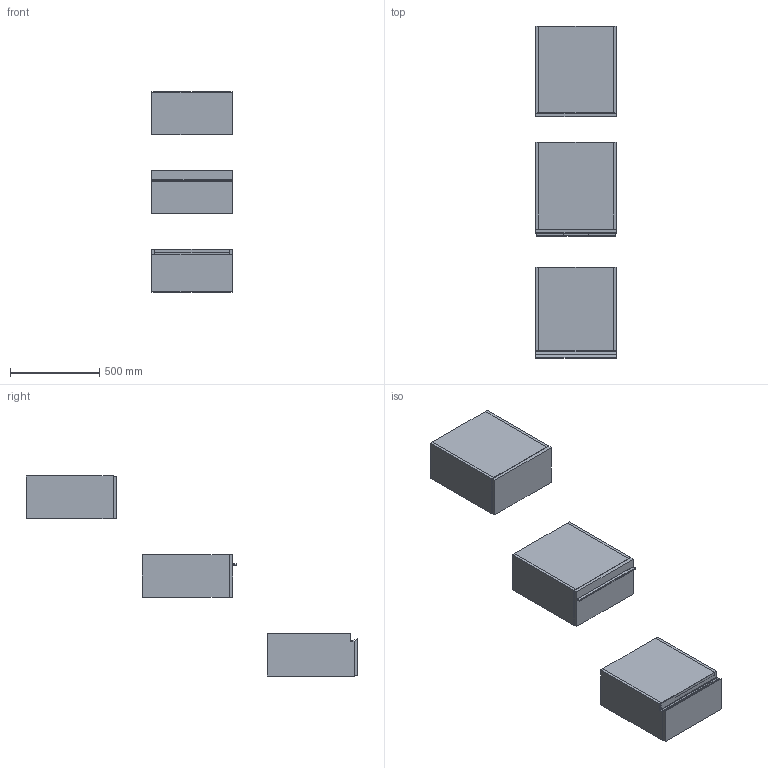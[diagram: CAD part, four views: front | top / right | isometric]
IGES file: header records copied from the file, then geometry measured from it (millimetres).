
Start section: Data from Parasolid IGES Translator 19.0.9, Copyright(c) 2006 Siemens PL M Software. All Rights Reserved.
Global section: file name: noorth-SI-H 24 D 51 W 45_8309.igs; native system: By Siemens PLM Incorporated; preprocessor: XPlus GENERIC/IGES 19.0.9; author: Noname; organization: Noname; date: 20200530.120654; units: metre
Bounding box: 450.01 x 1857.1 x 1120 mm (x, y, z)
Volume: 37225566.7 mm3; surface area: 5436801.4 mm2
Topology: 20 solids, 20 shells, 178 faces, 382 edges, 234 vertices
Faces by surface type: plane 134, extrusion 16, bspline 16, cylinder 12
